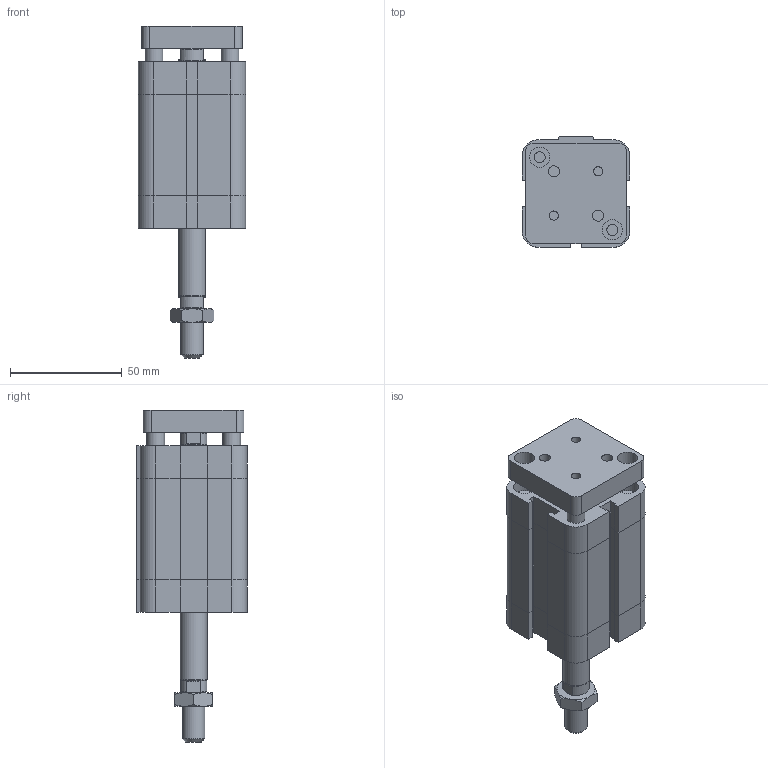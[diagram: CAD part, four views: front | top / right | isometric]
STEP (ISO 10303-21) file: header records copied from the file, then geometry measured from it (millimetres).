
FILE_DESCRIPTION((''),'2;1');
FILE_NAME('I:\Area Tecnica\Disegni\VARIE-3D\Componenti\EUROPE\15##_###_####_09_#\1561_32_0030_09_1.iam.stp','2009-04-20T15:35:59',(''),(''),'Autodesk Inventor 2009','Autodesk Inventor 2009','');
FILE_SCHEMA(('AUTOMOTIVE_DESIGN { 1 0 10303 214 1 1 1 1 }'));
Length unit declared in the file: millimetre
Products named in the file (4): 1561_32_0030_09_1; 1561_32_0030_08_1_C; 1561_32_0030_09_1_SA; DBFM10
Assembly tree (3 placements, depth 2):
  1561_32_0030_09_1
    1561_32_0030_08_1_C
    1561_32_0030_09_1_SA
    DBFM10
Bounding box: 48 x 49.5 x 148.5 mm (x, y, z)
Volume: 180452.7 mm3; surface area: 42695 mm2
Topology: 3 solids, 3 shells, 209 faces, 470 edges, 287 vertices
Faces by surface type: plane 120, bspline 45, cylinder 23, cone 21
Full cylindrical faces by diameter (mm): 8 x2, 8.8 x1, 10 x1, 11.7 x2, 12 x1
Entity records: 5963 total; most frequent: CARTESIAN_POINT 1453, DIRECTION 838, ORIENTED_EDGE 834, EDGE_CURVE 417, AXIS2_PLACEMENT_3D 282, EDGE_LOOP 282, VECTOR 274, LINE 274
